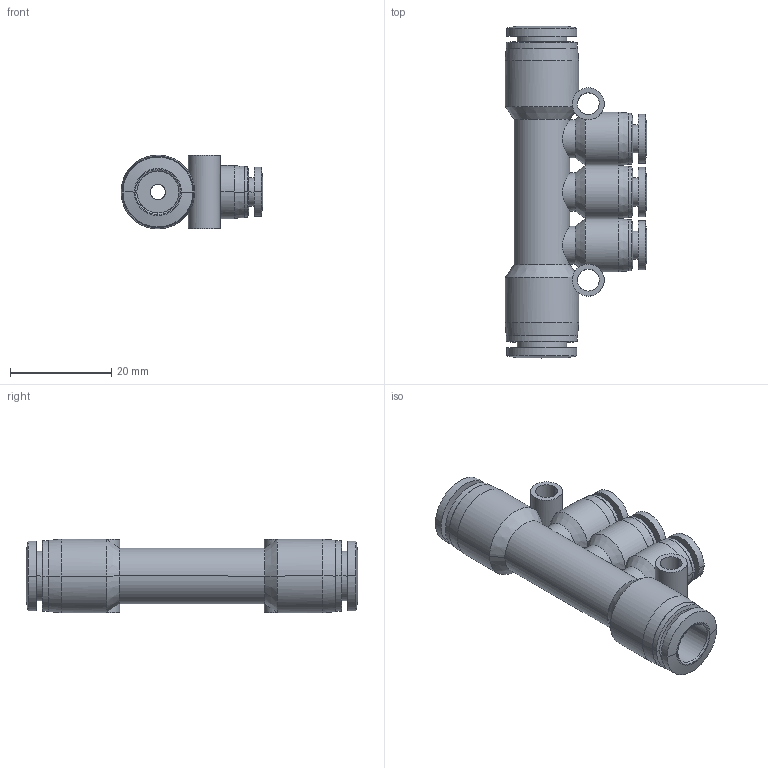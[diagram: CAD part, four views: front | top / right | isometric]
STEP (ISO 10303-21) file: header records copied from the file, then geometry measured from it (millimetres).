
FILE_DESCRIPTION (( 'STEP AP203' ), '1' );
FILE_NAME ('FRG08-04.STEP', '2020-05-12T14:58:25', ( '' ), ( '' ), 'SwSTEP 2.0', 'SolidWorks 2019', '' );
FILE_SCHEMA (( 'CONFIG_CONTROL_DESIGN' ));
Length unit declared in the file: millimetre
Products named in the file (1): FRG08-04
Bounding box: 27.95 x 65.5 x 14.5 mm (x, y, z)
Volume: 9117.2 mm3; surface area: 7706.5 mm2
Topology: 1 solids, 1 shells, 153 faces, 356 edges, 220 vertices
Faces by surface type: cylinder 74, cone 40, plane 29, bspline 10
Entity records: 8629 total; most frequent: CARTESIAN_POINT 5594, ORIENTED_EDGE 712, DIRECTION 408, EDGE_CURVE 356, VERTEX_POINT 220, B_SPLINE_CURVE_WITH_KNOTS 210, EDGE_LOOP 184, ADVANCED_FACE 153
